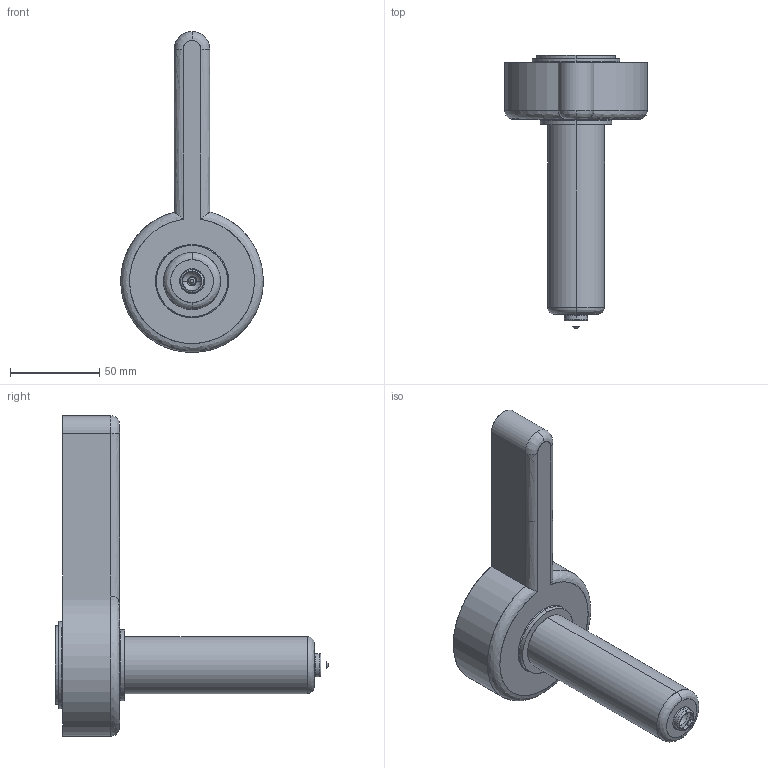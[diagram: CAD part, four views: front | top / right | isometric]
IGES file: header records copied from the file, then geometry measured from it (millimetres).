
Start section: SolidWorks IGES file using analytic representation for surfaces
Global section: file name: C:\Documents and Settings\ws-20\Desktop\TEM\Sede UGEP4503-S-A C-114 L-151 Ød-2.0.IGS; native system: SolidWorks 2012; preprocessor: SolidWorks 2012; author: ws-20; date: 120424.083525; units: millimetre
Bounding box: 79.97 x 153.29 x 180 mm (x, y, z)
Surface area: 38824.5 mm2 (no closed solid volume)
Topology: 0 solids, 0 shells, 44 faces, 952 edges, 952 vertices
Faces by surface type: revolution 27, bspline 17
